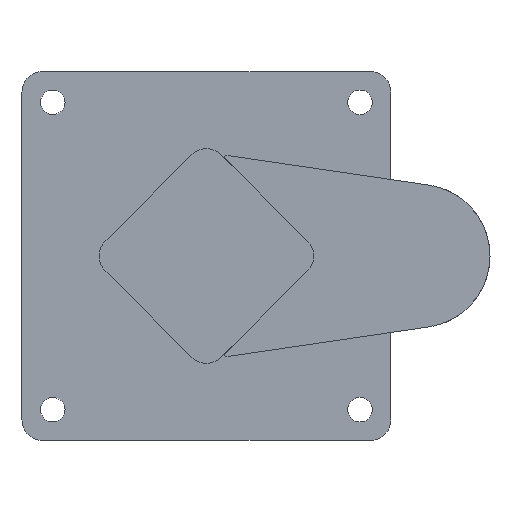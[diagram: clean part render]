
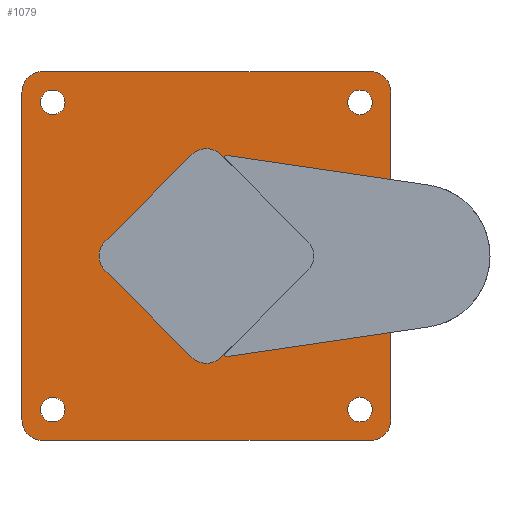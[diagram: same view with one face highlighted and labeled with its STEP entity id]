
A CAD part, front view. The second image highlights one B-rep face of the part: STEP entity #1079.
In plain terms, the highlighted planar face has unit normal (0, -1, 0).
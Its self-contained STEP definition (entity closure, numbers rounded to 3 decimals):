
#28=CARTESIAN_POINT('',(-80.,0.,-80.));
#29=DIRECTION('',(0.,1.,0.));
#30=DIRECTION('',(0.,0.,-1.));
#31=AXIS2_PLACEMENT_3D('',#28,#29,#30);
#33=DIRECTION('',(0.,0.,1.));
#34=VECTOR('',#33,160.);
#35=CARTESIAN_POINT('',(-90.,0.,-80.));
#36=LINE('',#35,#34);
#37=CARTESIAN_POINT('',(-80.,0.,80.));
#38=DIRECTION('',(0.,1.,0.));
#39=DIRECTION('',(-1.,0.,0.));
#40=AXIS2_PLACEMENT_3D('',#37,#38,#39);
#42=DIRECTION('',(1.,0.,0.));
#43=VECTOR('',#42,160.);
#44=CARTESIAN_POINT('',(-80.,0.,90.));
#45=LINE('',#44,#43);
#46=CARTESIAN_POINT('',(80.,0.,80.));
#47=DIRECTION('',(0.,1.,0.));
#48=DIRECTION('',(0.,0.,1.));
#49=AXIS2_PLACEMENT_3D('',#46,#47,#48);
#51=DIRECTION('',(0.,0.,-1.));
#52=VECTOR('',#51,160.);
#53=CARTESIAN_POINT('',(90.,0.,80.));
#54=LINE('',#53,#52);
#55=CARTESIAN_POINT('',(80.,0.,-80.));
#56=DIRECTION('',(0.,1.,0.));
#57=DIRECTION('',(1.,0.,0.));
#58=AXIS2_PLACEMENT_3D('',#55,#56,#57);
#60=DIRECTION('',(-1.,0.,0.));
#61=VECTOR('',#60,160.);
#62=CARTESIAN_POINT('',(80.,0.,-90.));
#63=LINE('',#62,#61);
#64=CARTESIAN_POINT('',(-75.,0.,-75.));
#65=DIRECTION('',(0.,-1.,0.));
#66=DIRECTION('',(0.,0.,1.));
#67=AXIS2_PLACEMENT_3D('',#64,#65,#66);
#69=CARTESIAN_POINT('',(-75.,0.,-75.));
#70=DIRECTION('',(0.,-1.,0.));
#71=DIRECTION('',(0.,0.,-1.));
#72=AXIS2_PLACEMENT_3D('',#69,#70,#71);
#74=CARTESIAN_POINT('',(75.,0.,-75.));
#75=DIRECTION('',(0.,-1.,0.));
#76=DIRECTION('',(0.,0.,-1.));
#77=AXIS2_PLACEMENT_3D('',#74,#75,#76);
#79=CARTESIAN_POINT('',(75.,0.,-75.));
#80=DIRECTION('',(0.,-1.,0.));
#81=DIRECTION('',(0.,0.,1.));
#82=AXIS2_PLACEMENT_3D('',#79,#80,#81);
#84=CARTESIAN_POINT('',(75.,0.,75.));
#85=DIRECTION('',(0.,-1.,0.));
#86=DIRECTION('',(0.,0.,1.));
#87=AXIS2_PLACEMENT_3D('',#84,#85,#86);
#89=CARTESIAN_POINT('',(75.,0.,75.));
#90=DIRECTION('',(0.,-1.,0.));
#91=DIRECTION('',(0.,0.,-1.));
#92=AXIS2_PLACEMENT_3D('',#89,#90,#91);
#94=CARTESIAN_POINT('',(-75.,0.,75.));
#95=DIRECTION('',(0.,-1.,0.));
#96=DIRECTION('',(0.,0.,1.));
#97=AXIS2_PLACEMENT_3D('',#94,#95,#96);
#99=CARTESIAN_POINT('',(-75.,0.,75.));
#100=DIRECTION('',(0.,-1.,0.));
#101=DIRECTION('',(0.,0.,-1.));
#102=AXIS2_PLACEMENT_3D('',#99,#100,#101);
#104=DIRECTION('',(-0.707,0.,-0.707));
#105=VECTOR('',#104,60.);
#106=CARTESIAN_POINT('',(49.497,0.,-7.071));
#107=LINE('',#106,#105);
#108=CARTESIAN_POINT('',(42.426,0.,0.));
#109=DIRECTION('',(0.,1.,0.));
#110=DIRECTION('',(0.707,0.,0.707));
#111=AXIS2_PLACEMENT_3D('',#108,#109,#110);
#113=DIRECTION('',(0.707,0.,-0.707));
#114=VECTOR('',#113,60.);
#115=CARTESIAN_POINT('',(7.071,0.,49.497));
#116=LINE('',#115,#114);
#117=DIRECTION('',(0.707,0.,0.707));
#118=VECTOR('',#117,60.);
#119=CARTESIAN_POINT('',(-49.497,0.,7.071));
#120=LINE('',#119,#118);
#121=CARTESIAN_POINT('',(-42.426,0.,0.));
#122=DIRECTION('',(0.,1.,0.));
#123=DIRECTION('',(-0.707,0.,-0.707));
#124=AXIS2_PLACEMENT_3D('',#121,#122,#123);
#126=DIRECTION('',(-0.707,0.,0.707));
#127=VECTOR('',#126,60.);
#128=CARTESIAN_POINT('',(-7.071,0.,-49.497));
#129=LINE('',#128,#127);
#279=CARTESIAN_POINT('',(0.,0.,-42.426));
#280=DIRECTION('',(0.,1.,0.));
#281=DIRECTION('',(0.707,0.,-0.707));
#282=AXIS2_PLACEMENT_3D('',#279,#280,#281);
#322=CARTESIAN_POINT('',(0.,0.,42.426));
#323=DIRECTION('',(0.,1.,0.));
#324=DIRECTION('',(-0.707,0.,0.707));
#325=AXIS2_PLACEMENT_3D('',#322,#323,#324);
#786=CARTESIAN_POINT('',(-80.,0.,-90.));
#787=CARTESIAN_POINT('',(-90.,0.,-80.));
#788=VERTEX_POINT('',#786);
#789=VERTEX_POINT('',#787);
#790=CARTESIAN_POINT('',(-90.,0.,80.));
#791=VERTEX_POINT('',#790);
#792=CARTESIAN_POINT('',(-80.,0.,90.));
#793=VERTEX_POINT('',#792);
#794=CARTESIAN_POINT('',(80.,0.,90.));
#795=VERTEX_POINT('',#794);
#796=CARTESIAN_POINT('',(90.,0.,80.));
#797=VERTEX_POINT('',#796);
#798=CARTESIAN_POINT('',(90.,0.,-80.));
#799=VERTEX_POINT('',#798);
#800=CARTESIAN_POINT('',(80.,0.,-90.));
#801=VERTEX_POINT('',#800);
#802=CARTESIAN_POINT('',(-75.,0.,-69.));
#803=CARTESIAN_POINT('',(-75.,0.,-81.));
#804=VERTEX_POINT('',#802);
#805=VERTEX_POINT('',#803);
#806=CARTESIAN_POINT('',(75.,0.,-81.));
#807=CARTESIAN_POINT('',(75.,0.,-69.));
#808=VERTEX_POINT('',#806);
#809=VERTEX_POINT('',#807);
#810=CARTESIAN_POINT('',(75.,0.,81.));
#811=CARTESIAN_POINT('',(75.,0.,69.));
#812=VERTEX_POINT('',#810);
#813=VERTEX_POINT('',#811);
#814=CARTESIAN_POINT('',(-75.,0.,81.));
#815=CARTESIAN_POINT('',(-75.,0.,69.));
#816=VERTEX_POINT('',#814);
#817=VERTEX_POINT('',#815);
#866=CARTESIAN_POINT('',(-7.071,0.,-49.497));
#867=CARTESIAN_POINT('',(-49.497,0.,-7.071));
#868=VERTEX_POINT('',#866);
#869=VERTEX_POINT('',#867);
#870=CARTESIAN_POINT('',(-49.497,0.,7.071));
#871=VERTEX_POINT('',#870);
#872=CARTESIAN_POINT('',(-7.071,0.,49.497));
#873=VERTEX_POINT('',#872);
#874=CARTESIAN_POINT('',(7.071,0.,49.497));
#875=CARTESIAN_POINT('',(49.497,0.,7.071));
#876=VERTEX_POINT('',#874);
#877=VERTEX_POINT('',#875);
#878=CARTESIAN_POINT('',(49.497,0.,-7.071));
#879=VERTEX_POINT('',#878);
#880=CARTESIAN_POINT('',(7.071,0.,-49.497));
#881=VERTEX_POINT('',#880);
#1014=CARTESIAN_POINT('',(0.,0.,0.));
#1015=DIRECTION('',(0.,1.,0.));
#1016=DIRECTION('',(1.,0.,0.));
#1017=AXIS2_PLACEMENT_3D('',#1014,#1015,#1016);
#1018=PLANE('',#1017);
#1020=ORIENTED_EDGE('',*,*,#1019,.T.);
#1022=ORIENTED_EDGE('',*,*,#1021,.T.);
#1024=ORIENTED_EDGE('',*,*,#1023,.T.);
#1026=ORIENTED_EDGE('',*,*,#1025,.T.);
#1028=ORIENTED_EDGE('',*,*,#1027,.T.);
#1030=ORIENTED_EDGE('',*,*,#1029,.T.);
#1032=ORIENTED_EDGE('',*,*,#1031,.T.);
#1034=ORIENTED_EDGE('',*,*,#1033,.T.);
#1035=EDGE_LOOP('',(#1020,#1022,#1024,#1026,#1028,#1030,#1032,#1034));
#1036=FACE_OUTER_BOUND('',#1035,.F.);
#1038=ORIENTED_EDGE('',*,*,#1037,.T.);
#1040=ORIENTED_EDGE('',*,*,#1039,.T.);
#1041=EDGE_LOOP('',(#1038,#1040));
#1042=FACE_BOUND('',#1041,.F.);
#1044=ORIENTED_EDGE('',*,*,#1043,.T.);
#1046=ORIENTED_EDGE('',*,*,#1045,.T.);
#1047=EDGE_LOOP('',(#1044,#1046));
#1048=FACE_BOUND('',#1047,.F.);
#1050=ORIENTED_EDGE('',*,*,#1049,.T.);
#1052=ORIENTED_EDGE('',*,*,#1051,.T.);
#1053=EDGE_LOOP('',(#1050,#1052));
#1054=FACE_BOUND('',#1053,.F.);
#1056=ORIENTED_EDGE('',*,*,#1055,.T.);
#1058=ORIENTED_EDGE('',*,*,#1057,.T.);
#1059=EDGE_LOOP('',(#1056,#1058));
#1060=FACE_BOUND('',#1059,.F.);
#1062=ORIENTED_EDGE('',*,*,#1061,.F.);
#1064=ORIENTED_EDGE('',*,*,#1063,.F.);
#1066=ORIENTED_EDGE('',*,*,#1065,.F.);
#1068=ORIENTED_EDGE('',*,*,#1067,.F.);
#1070=ORIENTED_EDGE('',*,*,#1069,.F.);
#1072=ORIENTED_EDGE('',*,*,#1071,.F.);
#1074=ORIENTED_EDGE('',*,*,#1073,.F.);
#1076=ORIENTED_EDGE('',*,*,#1075,.F.);
#1077=EDGE_LOOP('',(#1062,#1064,#1066,#1068,#1070,#1072,#1074,#1076));
#1078=FACE_BOUND('',#1077,.F.);
#32=CIRCLE('',#31,10.);
#41=CIRCLE('',#40,10.);
#50=CIRCLE('',#49,10.);
#59=CIRCLE('',#58,10.);
#68=CIRCLE('',#67,6.);
#73=CIRCLE('',#72,6.);
#78=CIRCLE('',#77,6.);
#83=CIRCLE('',#82,6.);
#88=CIRCLE('',#87,6.);
#93=CIRCLE('',#92,6.);
#98=CIRCLE('',#97,6.);
#103=CIRCLE('',#102,6.);
#112=CIRCLE('',#111,10.);
#125=CIRCLE('',#124,10.);
#283=CIRCLE('',#282,10.);
#326=CIRCLE('',#325,10.);
#1019=EDGE_CURVE('',#788,#789,#32,.T.);
#1021=EDGE_CURVE('',#789,#791,#36,.T.);
#1023=EDGE_CURVE('',#791,#793,#41,.T.);
#1025=EDGE_CURVE('',#793,#795,#45,.T.);
#1027=EDGE_CURVE('',#795,#797,#50,.T.);
#1029=EDGE_CURVE('',#797,#799,#54,.T.);
#1031=EDGE_CURVE('',#799,#801,#59,.T.);
#1033=EDGE_CURVE('',#801,#788,#63,.T.);
#1037=EDGE_CURVE('',#804,#805,#68,.T.);
#1039=EDGE_CURVE('',#805,#804,#73,.T.);
#1043=EDGE_CURVE('',#808,#809,#78,.T.);
#1045=EDGE_CURVE('',#809,#808,#83,.T.);
#1049=EDGE_CURVE('',#812,#813,#88,.T.);
#1051=EDGE_CURVE('',#813,#812,#93,.T.);
#1055=EDGE_CURVE('',#816,#817,#98,.T.);
#1057=EDGE_CURVE('',#817,#816,#103,.T.);
#1061=EDGE_CURVE('',#881,#868,#283,.T.);
#1063=EDGE_CURVE('',#879,#881,#107,.T.);
#1065=EDGE_CURVE('',#877,#879,#112,.T.);
#1067=EDGE_CURVE('',#876,#877,#116,.T.);
#1069=EDGE_CURVE('',#873,#876,#326,.T.);
#1071=EDGE_CURVE('',#871,#873,#120,.T.);
#1073=EDGE_CURVE('',#869,#871,#125,.T.);
#1075=EDGE_CURVE('',#868,#869,#129,.T.);
#1079=ADVANCED_FACE('',(#1036,#1042,#1048,#1054,#1060,#1078),#1018,.F.);
